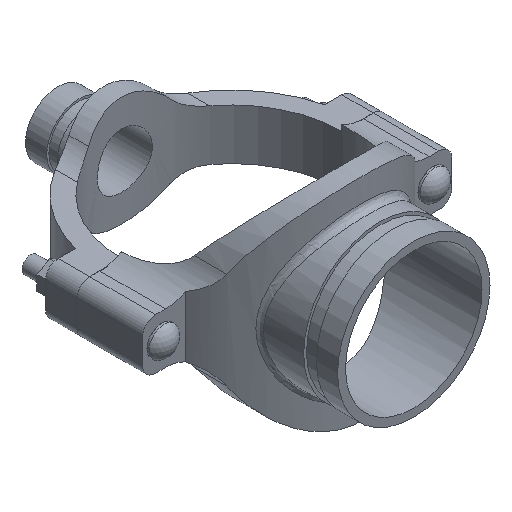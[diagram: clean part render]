
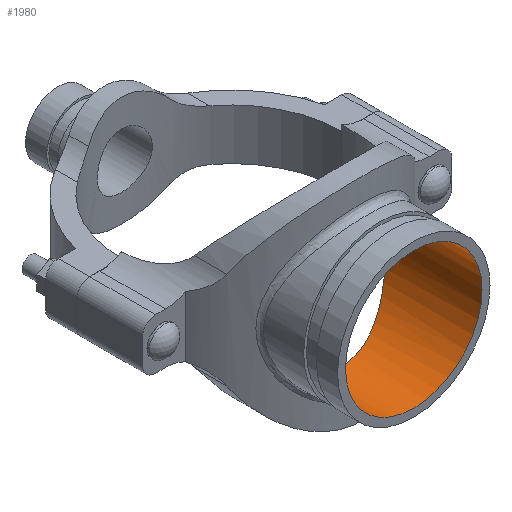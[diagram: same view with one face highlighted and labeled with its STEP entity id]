
A CAD part, isometric view. The second image highlights one B-rep face of the part: STEP entity #1980.
In plain terms, the highlighted cylindrical face has radius 51.197 mm (diameter 102.394 mm), a full revolution.
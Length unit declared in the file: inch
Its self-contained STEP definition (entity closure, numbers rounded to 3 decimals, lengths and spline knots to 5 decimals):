
#50=B_SPLINE_CURVE_WITH_KNOTS('',3,(#3992,#3993,#3994,#3995,#3996,#3997,
#3998,#3999,#4000,#4001,#4002,#4003,#4004,#4005,#4006,#4007,#4008,#4009,
#4010,#4011,#4012,#4013,#4014,#4015,#4016,#4017,#4018,#4019,#4020,#4021,
#4022,#4023,#4024,#4025,#4026,#4027,#4028,#4029,#4030,#4031,#4032,#4033,
#4034,#4035,#4036,#4037,#4038,#4039,#4040,#4041,#4042,#4043,#4044,#4045,
#4046,#4047,#4048,#4049,#4050,#4051,#4052,#4053,#4054,#4055,#4056,#4057),
 .UNSPECIFIED.,.T.,.F.,(4,2,2,2,2,2,2,2,2,2,2,2,2,2,2,2,2,2,2,2,2,2,2,2,
2,2,2,2,2,2,2,2,4),(0.,1.00125,2.0025,3.00375,
4.005,4.99863,5.99227,6.98591,7.97954,
8.97318,9.96682,10.96046,11.95409,12.95534,
13.95659,14.95784,15.95909,16.96034,17.96159,
18.96284,19.96408,20.95772,21.95136,22.945,
23.93863,24.93227,25.92591,26.91954,27.91318,
28.91443,29.91568,30.91693,31.91818),
 .UNSPECIFIED.);
#95=CYLINDRICAL_SURFACE('',#2213,2.01563);
#212=FACE_OUTER_BOUND('',#334,.T.);
#334=EDGE_LOOP('',(#1588,#1589,#1590,#1591));
#484=LINE('',#3991,#632);
#632=VECTOR('',#2674,2.01563);
#730=CIRCLE('',#2214,2.01563);
#895=VERTEX_POINT('',#3988);
#896=VERTEX_POINT('',#3990);
#1140=EDGE_CURVE('',#895,#895,#730,.T.);
#1141=EDGE_CURVE('',#895,#896,#484,.T.);
#1142=EDGE_CURVE('',#896,#896,#50,.T.);
#1588=ORIENTED_EDGE('',*,*,#1140,.F.);
#1589=ORIENTED_EDGE('',*,*,#1141,.T.);
#1590=ORIENTED_EDGE('',*,*,#1142,.F.);
#1591=ORIENTED_EDGE('',*,*,#1141,.F.);
#1980=ADVANCED_FACE('',(#212),#95,.F.);
#2213=AXIS2_PLACEMENT_3D('',#3987,#2670,#2671);
#2214=AXIS2_PLACEMENT_3D('',#3989,#2672,#2673);
#2670=DIRECTION('center_axis',(0.,-1.,0.));
#2671=DIRECTION('ref_axis',(-1.,0.,0.));
#2672=DIRECTION('center_axis',(0.,-1.,0.));
#2673=DIRECTION('ref_axis',(-1.,0.,0.));
#2674=DIRECTION('',(0.,-1.,0.));
#3987=CARTESIAN_POINT('Origin',(0.,5.38,0.));
#3988=CARTESIAN_POINT('',(2.01563,5.38,0.));
#3989=CARTESIAN_POINT('Origin',(0.,5.38,0.));
#3990=CARTESIAN_POINT('',(2.01563,2.54946,0.));
#3991=CARTESIAN_POINT('',(2.01563,5.38,0.));
#3992=CARTESIAN_POINT('Ctrl Pts',(2.01563,2.54946,0.));
#3993=CARTESIAN_POINT('Ctrl Pts',(2.01563,2.54946,-0.1314));
#3994=CARTESIAN_POINT('Ctrl Pts',(2.00259,2.55993,-0.2654));
#3995=CARTESIAN_POINT('Ctrl Pts',(1.94964,2.60049,-0.52889));
#3996=CARTESIAN_POINT('Ctrl Pts',(1.90975,2.63047,-0.6584));
#3997=CARTESIAN_POINT('Ctrl Pts',(1.80606,2.70271,-0.90485));
#3998=CARTESIAN_POINT('Ctrl Pts',(1.74218,2.74492,-1.02206));
#3999=CARTESIAN_POINT('Ctrl Pts',(1.59571,2.83257,-1.23835));
#4000=CARTESIAN_POINT('Ctrl Pts',(1.51309,2.87795,-1.33743));
#4001=CARTESIAN_POINT('Ctrl Pts',(1.3381,2.96334,-1.51243));
#4002=CARTESIAN_POINT('Ctrl Pts',(1.23936,3.00663,-1.59493));
#4003=CARTESIAN_POINT('Ctrl Pts',(1.02299,3.08696,-1.74164));
#4004=CARTESIAN_POINT('Ctrl Pts',(0.90535,3.12395,-1.80585));
#4005=CARTESIAN_POINT('Ctrl Pts',(0.65792,3.18526,-1.90995));
#4006=CARTESIAN_POINT('Ctrl Pts',(0.52788,3.20959,-1.94992));
#4007=CARTESIAN_POINT('Ctrl Pts',(0.26412,3.24197,-2.00277));
#4008=CARTESIAN_POINT('Ctrl Pts',(0.1304,3.25,-2.01563));
#4009=CARTESIAN_POINT('Ctrl Pts',(-0.1304,3.25,-2.01563));
#4010=CARTESIAN_POINT('Ctrl Pts',(-0.26412,3.24197,-2.00277));
#4011=CARTESIAN_POINT('Ctrl Pts',(-0.52788,3.20959,-1.94992));
#4012=CARTESIAN_POINT('Ctrl Pts',(-0.65792,3.18526,-1.90995));
#4013=CARTESIAN_POINT('Ctrl Pts',(-0.90535,3.12395,-1.80585));
#4014=CARTESIAN_POINT('Ctrl Pts',(-1.02299,3.08696,-1.74164));
#4015=CARTESIAN_POINT('Ctrl Pts',(-1.23936,3.00663,-1.59493));
#4016=CARTESIAN_POINT('Ctrl Pts',(-1.3381,2.96334,-1.51243));
#4017=CARTESIAN_POINT('Ctrl Pts',(-1.51309,2.87795,-1.33743));
#4018=CARTESIAN_POINT('Ctrl Pts',(-1.59571,2.83257,-1.23835));
#4019=CARTESIAN_POINT('Ctrl Pts',(-1.74218,2.74492,-1.02206));
#4020=CARTESIAN_POINT('Ctrl Pts',(-1.80606,2.70271,-0.90485));
#4021=CARTESIAN_POINT('Ctrl Pts',(-1.90975,2.63047,-0.6584));
#4022=CARTESIAN_POINT('Ctrl Pts',(-1.94964,2.60049,-0.52889));
#4023=CARTESIAN_POINT('Ctrl Pts',(-2.00259,2.55993,-0.2654));
#4024=CARTESIAN_POINT('Ctrl Pts',(-2.01563,2.54946,-0.1314));
#4025=CARTESIAN_POINT('Ctrl Pts',(-2.01563,2.54946,0.1314));
#4026=CARTESIAN_POINT('Ctrl Pts',(-2.00259,2.55993,0.2654));
#4027=CARTESIAN_POINT('Ctrl Pts',(-1.94964,2.60049,0.52889));
#4028=CARTESIAN_POINT('Ctrl Pts',(-1.90975,2.63047,0.6584));
#4029=CARTESIAN_POINT('Ctrl Pts',(-1.80606,2.70271,0.90485));
#4030=CARTESIAN_POINT('Ctrl Pts',(-1.74218,2.74492,1.02206));
#4031=CARTESIAN_POINT('Ctrl Pts',(-1.59571,2.83257,1.23835));
#4032=CARTESIAN_POINT('Ctrl Pts',(-1.51309,2.87795,1.33743));
#4033=CARTESIAN_POINT('Ctrl Pts',(-1.3381,2.96334,1.51243));
#4034=CARTESIAN_POINT('Ctrl Pts',(-1.23936,3.00663,1.59493));
#4035=CARTESIAN_POINT('Ctrl Pts',(-1.02299,3.08696,1.74164));
#4036=CARTESIAN_POINT('Ctrl Pts',(-0.90535,3.12395,1.80585));
#4037=CARTESIAN_POINT('Ctrl Pts',(-0.65792,3.18526,1.90995));
#4038=CARTESIAN_POINT('Ctrl Pts',(-0.52788,3.20959,1.94992));
#4039=CARTESIAN_POINT('Ctrl Pts',(-0.26412,3.24197,2.00277));
#4040=CARTESIAN_POINT('Ctrl Pts',(-0.1304,3.25,2.01563));
#4041=CARTESIAN_POINT('Ctrl Pts',(0.1304,3.25,2.01563));
#4042=CARTESIAN_POINT('Ctrl Pts',(0.26412,3.24197,2.00277));
#4043=CARTESIAN_POINT('Ctrl Pts',(0.52788,3.20959,1.94992));
#4044=CARTESIAN_POINT('Ctrl Pts',(0.65792,3.18526,1.90995));
#4045=CARTESIAN_POINT('Ctrl Pts',(0.90535,3.12395,1.80585));
#4046=CARTESIAN_POINT('Ctrl Pts',(1.02299,3.08696,1.74164));
#4047=CARTESIAN_POINT('Ctrl Pts',(1.23936,3.00663,1.59493));
#4048=CARTESIAN_POINT('Ctrl Pts',(1.3381,2.96334,1.51243));
#4049=CARTESIAN_POINT('Ctrl Pts',(1.51309,2.87795,1.33743));
#4050=CARTESIAN_POINT('Ctrl Pts',(1.59571,2.83257,1.23835));
#4051=CARTESIAN_POINT('Ctrl Pts',(1.74218,2.74492,1.02206));
#4052=CARTESIAN_POINT('Ctrl Pts',(1.80606,2.70271,0.90485));
#4053=CARTESIAN_POINT('Ctrl Pts',(1.90975,2.63047,0.6584));
#4054=CARTESIAN_POINT('Ctrl Pts',(1.94964,2.60049,0.52889));
#4055=CARTESIAN_POINT('Ctrl Pts',(2.00259,2.55993,0.2654));
#4056=CARTESIAN_POINT('Ctrl Pts',(2.01563,2.54946,0.1314));
#4057=CARTESIAN_POINT('Ctrl Pts',(2.01563,2.54946,0.));
